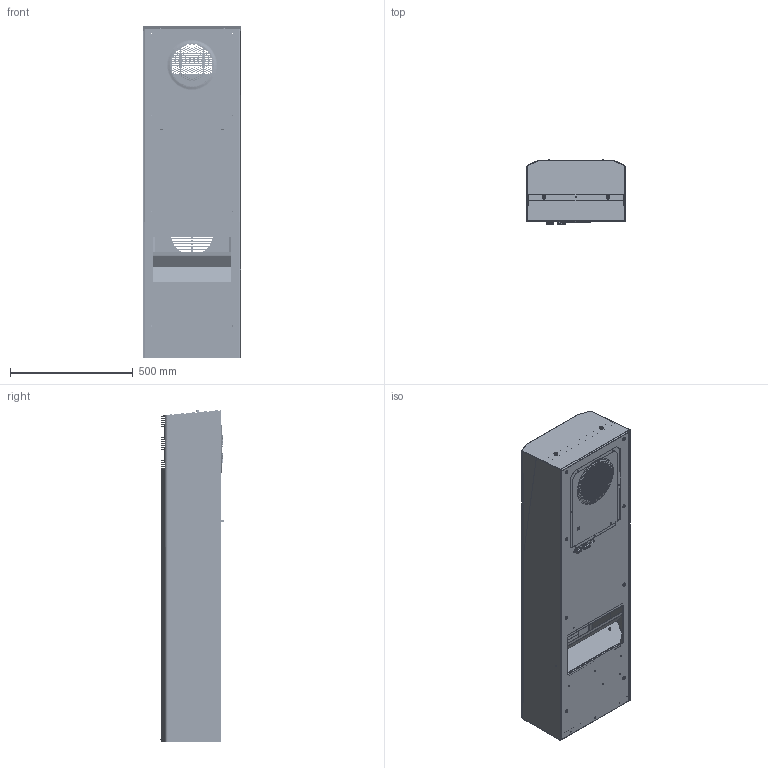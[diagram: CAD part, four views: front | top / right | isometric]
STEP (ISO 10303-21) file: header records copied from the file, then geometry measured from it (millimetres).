
FILE_DESCRIPTION (( 'STEP AP203' ), '1' );
FILE_NAME ('60054-101.STEP', '2024-10-16T02:51:25', ( '' ), ( '' ), 'SwSTEP 2.0', 'SolidWorks 2021', '' );
FILE_SCHEMA (( 'CONFIG_CONTROL_DESIGN' ));
Length unit declared in the file: millimetre
Products named in the file (18): 60054-213_DTS8541E; Blechschraube mit Linsenkopf und Kreuzschlitz - DIN 7981_020100650 Schraube 4.2x9.5 St zn  DIN 7981; Flachkopfschraube mit Kreutzschlitz - DIN EN ISO 7045_ISO 7045 - M8 x 16 - Z --- 16N; 60054-019_Standard; 60054-012; rubber pipe for 60054_Standard; 60054-038_Standard; 025416705 Wago 231-605_019-000_Standard; 60054-045_default; 60054-201_DTS854E 400V 50&60Hz; 60054-022_Standard; 30348-201_mounting plate1mm standard£¨DTS 8xxxE VAH); 60054-101; 60054-202_DTS8541E 400V 2~; 60054-203_DTS8441&8541E; 60054-220_DTS8541E VAH 50&60Hz; 025416793 Wago 731-604_019-000_Standard; 30302-021
Assembly tree (19 placements, depth 4):
  60054-101
    60054-201_DTS854E 400V 50&60Hz
      60054-202_DTS8541E 400V 2~
        60054-019_Standard
      60054-203_DTS8441&8541E
        60054-012
      025416705 Wago 231-605_019-000_Standard
      025416793 Wago 731-604_019-000_Standard
      60054-213_DTS8541E
        60054-038_Standard
    Blechschraube mit Linsenkopf und Kreuzschlitz - DIN 7981_020100650 Schraube 4.2x9.5 St zn  DIN 7981  x2
    Flachkopfschraube mit Kreutzschlitz - DIN EN ISO 7045_ISO 7045 - M8 x 16 - Z --- 16N  x2
    rubber pipe for 60054_Standard
    60054-022_Standard
    60054-220_DTS8541E VAH 50&60Hz
      30348-201_mounting plate1mm standard£¨DTS 8xxxE VAH)
        30302-021
      60054-045_default
Bounding box: 400 x 263.45 x 1350 mm (x, y, z)
Volume: 2371588.3 mm3; surface area: 4626665.8 mm2
Topology: 33 solids, 33 shells, 4430 faces, 12969 edges, 8462 vertices
Faces by surface type: plane 2190, cylinder 1633, bspline 313, cone 150, torus 140, sphere 4
Entity records: 178242 total; most frequent: CARTESIAN_POINT 58960, ORIENTED_EDGE 25602, DIRECTION 22950, EDGE_CURVE 12801, VERTEX_POINT 8368, AXIS2_PLACEMENT_3D 7842, VECTOR 7266, LINE 7266
